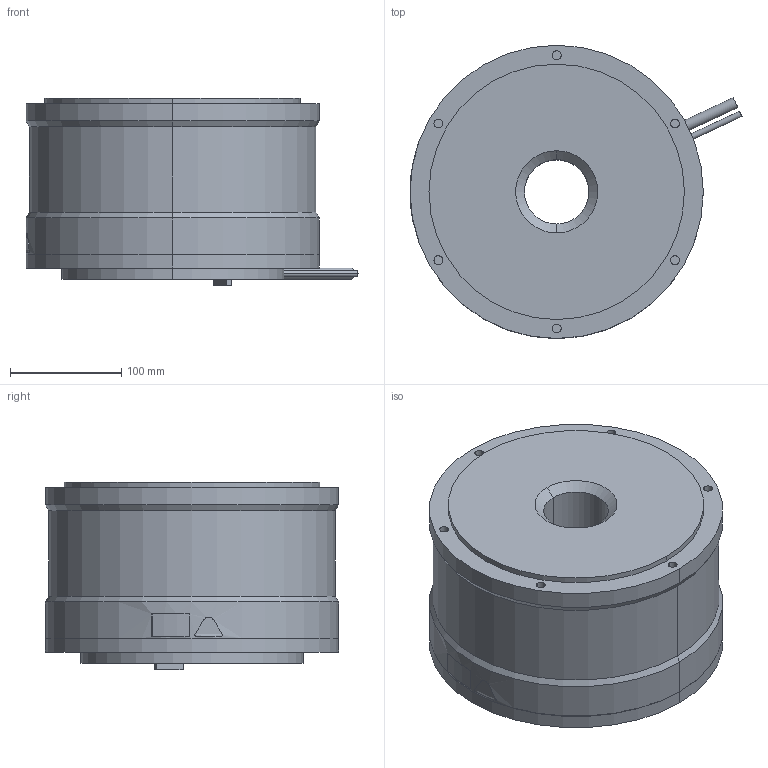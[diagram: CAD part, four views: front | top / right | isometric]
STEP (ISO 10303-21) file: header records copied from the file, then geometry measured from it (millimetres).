
FILE_DESCRIPTION (( 'STEP AP203' ), '1' );
FILE_NAME ('sgm7d_90f_c4_.STEP', '2016-02-22T07:37:03', ( '' ), ( '' ), 'SwSTEP 2.0', 'SolidWorks 2010', '' );
FILE_SCHEMA (( 'CONFIG_CONTROL_DESIGN' ));
Length unit declared in the file: millimetre
Products named in the file (1): sgm7d_90f_c4_
Bounding box: 298.93 x 264 x 169 mm (x, y, z)
Volume: 7962340.5 mm3; surface area: 280931.5 mm2
Topology: 3 solids, 3 shells, 203 faces, 432 edges, 282 vertices
Faces by surface type: cylinder 122, plane 70, cone 6, bspline 5
Entity records: 5969 total; most frequent: CARTESIAN_POINT 1295, DIRECTION 1066, ORIENTED_EDGE 864, AXIS2_PLACEMENT_3D 455, EDGE_CURVE 432, VERTEX_POINT 282, CIRCLE 256, EDGE_LOOP 252
